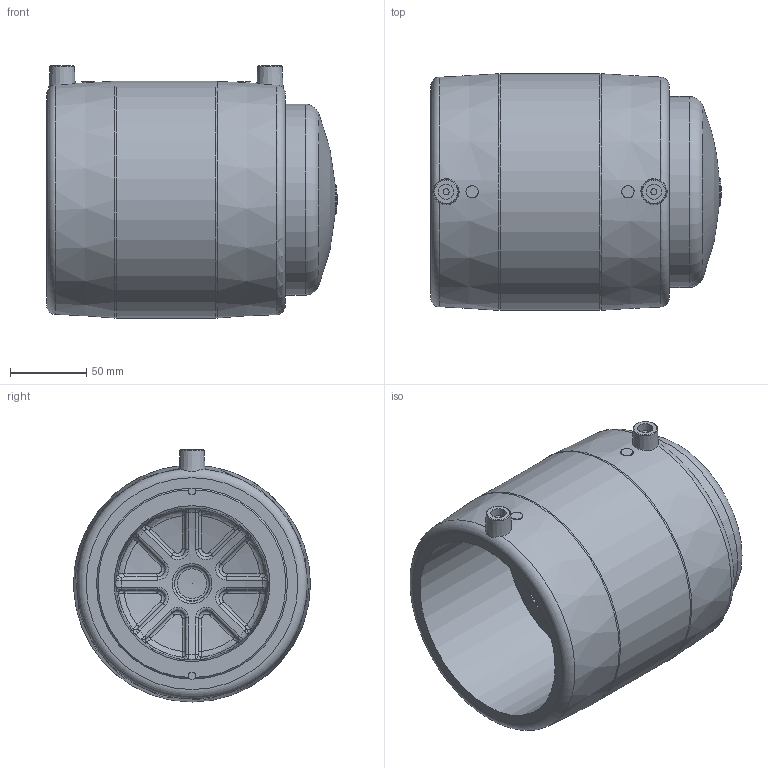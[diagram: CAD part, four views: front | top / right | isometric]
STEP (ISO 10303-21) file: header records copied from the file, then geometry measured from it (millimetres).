
FILE_DESCRIPTION(/* description */ ('Unknown'),/* implementation_level */ '2;1');
FILE_NAME(/* name */ 'CAEP125C',/* time_stamp */ '2021-02-11T10:21:17+01:00',/* author */ ('Unknown'),/* organization */ ('Unknown'),/* preprocessor_version */ 'ST-DEVELOPER v16.7',/* originating_system */ 'Solid Edge',/* authorisation */ 'Unknown');
FILE_SCHEMA (('AUTOMOTIVE_DESIGN {1 0 10303 214 3 1 1}'));
Length unit declared in the file: millimetre
Products named in the file (3): CAEP125C; MP125C; CAP125C
Assembly tree (2 placements, depth 2):
  CAEP125C
    MP125C
    CAP125C
Bounding box: 190 x 155 x 165 mm (x, y, z)
Volume: 1491473.1 mm3; surface area: 238557.5 mm2
Topology: 2 solids, 2 shells, 241 faces, 574 edges, 327 vertices
Faces by surface type: bspline 144, torus 41, plane 21, cylinder 15, sphere 12, cone 8
Full cylindrical faces by diameter (mm): 4 x2, 8 x2, 10 x2, 100.2 x1, 102 x1, 125 x2, 155 x1
Entity records: 8261 total; most frequent: CARTESIAN_POINT 3944, ORIENTED_EDGE 1006, DIRECTION 674, EDGE_CURVE 503, AXIS2_PLACEMENT_3D 325, VERTEX_POINT 305, EDGE_LOOP 282, FACE_BOUND 282
